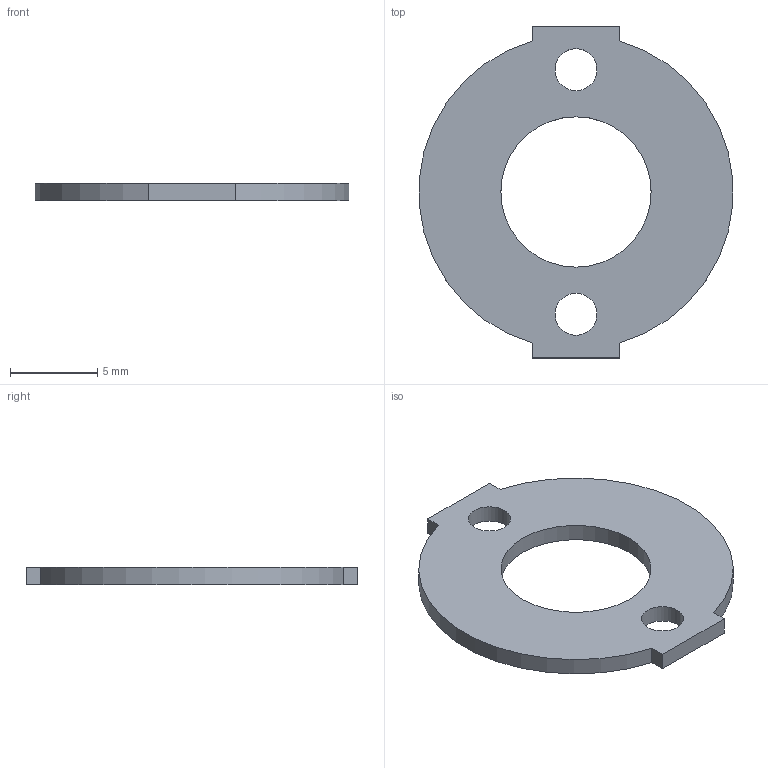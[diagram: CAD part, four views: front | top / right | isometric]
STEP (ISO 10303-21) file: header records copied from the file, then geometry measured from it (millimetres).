
FILE_DESCRIPTION(('Open CASCADE Model'),'2;1');
FILE_NAME('P17-bearing_retainer.step', '', ('Noah Wilson'), (''), '', '', '');
FILE_SCHEMA(('AUTOMOTIVE_DESIGN { 1 0 10303 214 1 1 1 1 }'));
Length unit declared in the file: millimetre
Products named in the file (1): COMPOUND
Bounding box: 17.93 x 19 x 1 mm (x, y, z)
Volume: 193.5 mm3; surface area: 488.9 mm2
Topology: 1 solids, 1 shells, 13 faces, 33 edges, 22 vertices
Faces by surface type: plane 8, cylinder 5
Full cylindrical faces by diameter (mm): 2.4 x2, 8.6 x1
Entity records: 846 total; most frequent: CARTESIAN_POINT 155, DIRECTION 127, LINE 71, VECTOR 71, ORIENTED_EDGE 66, PCURVE 66, DEFINITIONAL_REPRESENTATION 66, EDGE_CURVE 33
